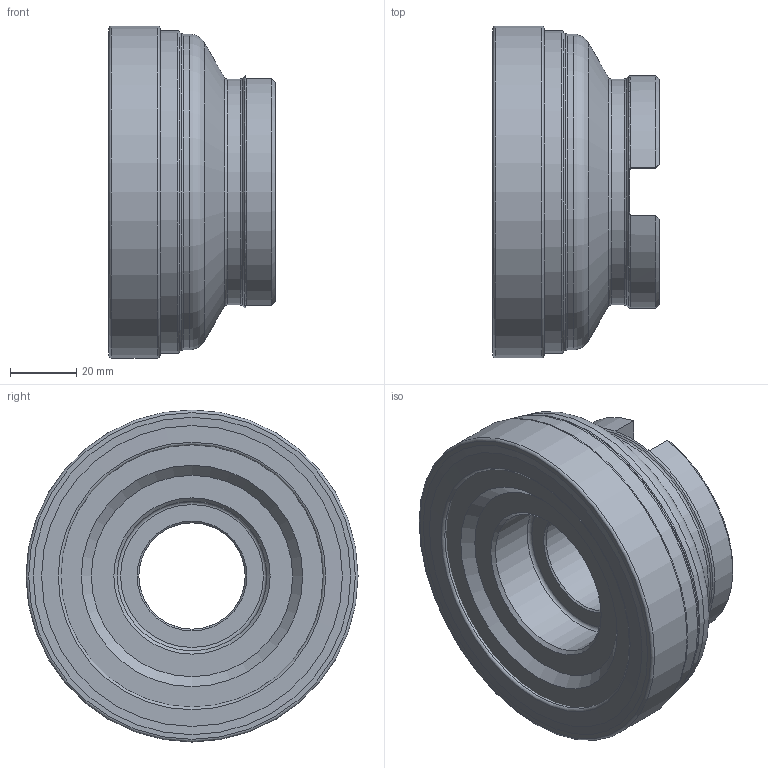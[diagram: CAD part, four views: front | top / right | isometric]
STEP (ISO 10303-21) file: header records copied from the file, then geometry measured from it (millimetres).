
FILE_DESCRIPTION(/* description */ (''),/* implementation_level */ '2;1');
FILE_NAME(/* name */ 'emp13-100-b32-an15-08.stp',/* time_stamp */ '2018-11-20T13:49:33+08:00',/* author */ (''),/* organization */ (''),/* preprocessor_version */ 'ST-DEVELOPER v11',/* originating_system */ 'UGS - NX 5.0',/* authorisation */ '');
FILE_SCHEMA (('CONFIG_CONTROL_DESIGN'));
Length unit declared in the file: millimetre
Products named in the file (1): wang4F8Ch21m
Bounding box: 50 x 99.9 x 99.9 mm (x, y, z)
Volume: 267338.4 mm3; surface area: 44122.2 mm2
Topology: 2 solids, 2 shells, 60 faces, 143 edges, 89 vertices
Faces by surface type: plane 20, cone 14, cylinder 13, torus 13
Full cylindrical faces by diameter (mm): 32 x1, 45 x1, 68 x1, 78.9 x1, 95 x1, 97 x1, 99.9 x1
Entity records: 1751 total; most frequent: CARTESIAN_POINT 478, DIRECTION 248, ORIENTED_EDGE 206, AXIS2_PLACEMENT_3D 112, EDGE_CURVE 103, EDGE_LOOP 94, VERTEX_POINT 77, FACE_BOUND 68
